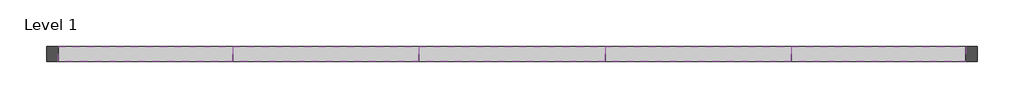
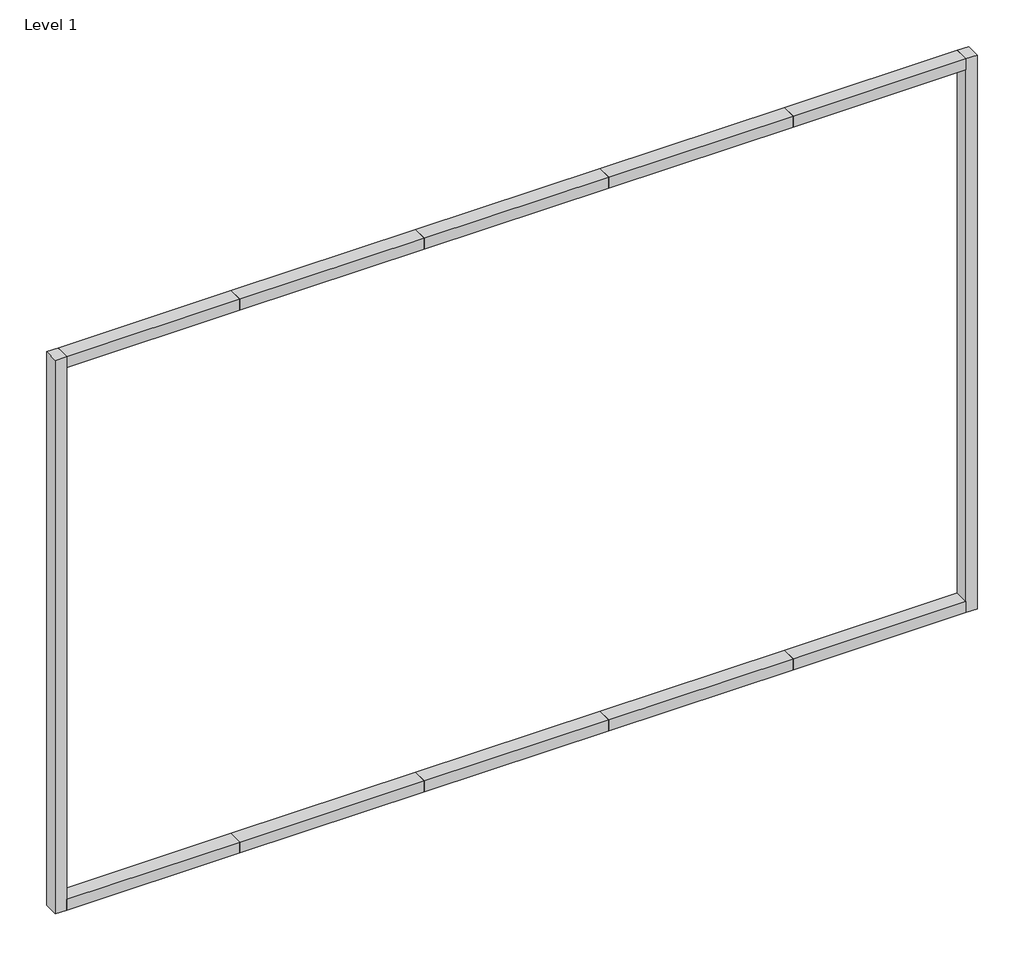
# One storey, incomplete: 12 members.
"""IFC4 building model written with IfcOpenShell, lengths in millimetres."""

from ifc_helpers import new_model, si_unit, origin, place, context, project, spatial, transform, mapped, element, save
from components import rectangular_mullion_61379318, rectangular_mullion_b10fa2df, rectangular_mullion_79587ba0

model = new_model("IFC4")

# Units and contexts
model_context = context("Model", 3, world=origin())
ifc_project = project(units=[si_unit("LENGTHUNIT", "METRE", prefix="MILLI")], contexts=[model_context])

# Site, building, storey
site = spatial("IfcSite", under=ifc_project)
building = spatial("IfcBuilding", under=site)
storey = spatial("IfcBuildingStorey", under=building, Name="Level 1", Elevation=0.0)

# Members
placement = place(None, origin())
rectangular_mullion_shape = rectangular_mullion_61379318(model_context)
element("IfcMember", 1, ObjectType="Rectangular Mullion : MCGRORY - Forster Fuego Light - 60 Min Rated - Side Mullion A", at=placement, inside=storey, context=model_context, shape_type="MappedRepresentation", body=[
    mapped(rectangular_mullion_shape, transform((9705.1627373, 2096.1630076, 2540.0), x_axis=(0.0, 0.0, 1.0), y_axis=(0.0, -1.0, 0.0), z_axis=(1.0, 0.0, 0.0))),
])
element("IfcMember", 2, ObjectType="Rectangular Mullion : MCGRORY - Forster Fuego Light - 60 Min Rated - Side Mullion B", at=placement, inside=storey, context=model_context, shape_type="MappedRepresentation", body=[
    mapped(rectangular_mullion_shape, transform((5805.1189928, 2096.1630076, 0.0), x_axis=(0.0, 0.0, -1.0), y_axis=(0.0, -1.0, 0.0), z_axis=(-1.0, 0.0, 0.0))),
])
element("IfcMember", 3, ObjectType="Rectangular Mullion : MCGRORY - Forster Fuego Light - 60 Min Rated - Side Mullion A", at=placement, inside=storey, context=model_context, shape_type="MappedRepresentation", body=[
    mapped(rectangular_mullion_shape, transform((6555.1408651, 2096.1630076, 2540.0), x_axis=(0.0, 0.0, 1.0), y_axis=(0.0, -1.0, 0.0), z_axis=(1.0, 0.0, 0.0))),
])
rectangular_mullion_2_shape = rectangular_mullion_b10fa2df(model_context)
element("IfcMember", 4, ObjectType="Rectangular Mullion : MCGRORY - Forster Fuego Light - 60 Min Rated - Side Mullion B", at=placement, inside=storey, context=model_context, shape_type="MappedRepresentation", body=[
    mapped(rectangular_mullion_2_shape, transform((6555.1408651, 2096.1630076, 0.0), x_axis=(0.0, 0.0, -1.0), y_axis=(0.0, -1.0, 0.0), z_axis=(-1.0, 0.0, 0.0))),
])
element("IfcMember", 5, ObjectType="Rectangular Mullion : MCGRORY - Forster Fuego Light - 60 Min Rated - Side Mullion B", at=placement, inside=storey, context=model_context, shape_type="MappedRepresentation", body=[
    mapped(rectangular_mullion_2_shape, transform((7355.1408651, 2096.1630076, 0.0), x_axis=(0.0, 0.0, -1.0), y_axis=(0.0, -1.0, 0.0), z_axis=(-1.0, 0.0, 0.0))),
])
element("IfcMember", 6, ObjectType="Rectangular Mullion : MCGRORY - Forster Fuego Light - 60 Min Rated - Side Mullion B", at=placement, inside=storey, context=model_context, shape_type="MappedRepresentation", body=[
    mapped(rectangular_mullion_2_shape, transform((8155.1408651, 2096.1630076, 0.0), x_axis=(0.0, 0.0, -1.0), y_axis=(0.0, -1.0, 0.0), z_axis=(-1.0, 0.0, 0.0))),
])
element("IfcMember", 7, ObjectType="Rectangular Mullion : MCGRORY - Forster Fuego Light - 60 Min Rated - Side Mullion A", at=placement, inside=storey, context=model_context, shape_type="MappedRepresentation", body=[
    mapped(rectangular_mullion_2_shape, transform((7355.1408651, 2096.1630076, 2540.0), x_axis=(0.0, 0.0, 1.0), y_axis=(0.0, -1.0, 0.0), z_axis=(1.0, 0.0, 0.0))),
])
element("IfcMember", 8, ObjectType="Rectangular Mullion : MCGRORY - Forster Fuego Light - 60 Min Rated - Side Mullion A", at=placement, inside=storey, context=model_context, shape_type="MappedRepresentation", body=[
    mapped(rectangular_mullion_2_shape, transform((8155.1408651, 2096.1630076, 2540.0), x_axis=(0.0, 0.0, 1.0), y_axis=(0.0, -1.0, 0.0), z_axis=(1.0, 0.0, 0.0))),
])
element("IfcMember", 9, ObjectType="Rectangular Mullion : MCGRORY - Forster Fuego Light - 60 Min Rated - Side Mullion A", at=placement, inside=storey, context=model_context, shape_type="MappedRepresentation", body=[
    mapped(rectangular_mullion_2_shape, transform((8955.1408651, 2096.1630076, 2540.0), x_axis=(0.0, 0.0, 1.0), y_axis=(0.0, -1.0, 0.0), z_axis=(1.0, 0.0, 0.0))),
])
element("IfcMember", 10, ObjectType="Rectangular Mullion : MCGRORY - Forster Fuego Light - 60 Min Rated - Side Mullion B", at=placement, inside=storey, context=model_context, shape_type="MappedRepresentation", body=[
    mapped(rectangular_mullion_shape, transform((8955.1408651, 2096.1630076, 0.0), x_axis=(0.0, 0.0, -1.0), y_axis=(0.0, -1.0, 0.0), z_axis=(-1.0, 0.0, 0.0))),
])
rectangular_mullion_3_shape = rectangular_mullion_79587ba0(model_context)
element("IfcMember", 11, ObjectType="Rectangular Mullion : MCGRORY - Forster Fuego Light - 60 Min Rated - Side Mullion A", at=placement, inside=storey, context=model_context, shape_type="MappedRepresentation", body=[
    mapped(rectangular_mullion_3_shape, transform((9755.1408651, 2096.1630076, 0.0), x_axis=(1.0, 0.0, 0.0), y_axis=(0.0, -1.0, 0.0), z_axis=(0.0, 0.0, -1.0))),
])
element("IfcMember", 12, ObjectType="Rectangular Mullion : MCGRORY - Forster Fuego Light - 60 Min Rated - Side Mullion B", at=placement, inside=storey, context=model_context, shape_type="MappedRepresentation", body=[
    mapped(rectangular_mullion_3_shape, transform((5755.1408651, 2096.1630076, 2540.0), x_axis=(-1.0, 0.0, 0.0), y_axis=(0.0, -1.0, 0.0), z_axis=(0.0, 0.0, 1.0))),
])

save(model, "model.ifc")
